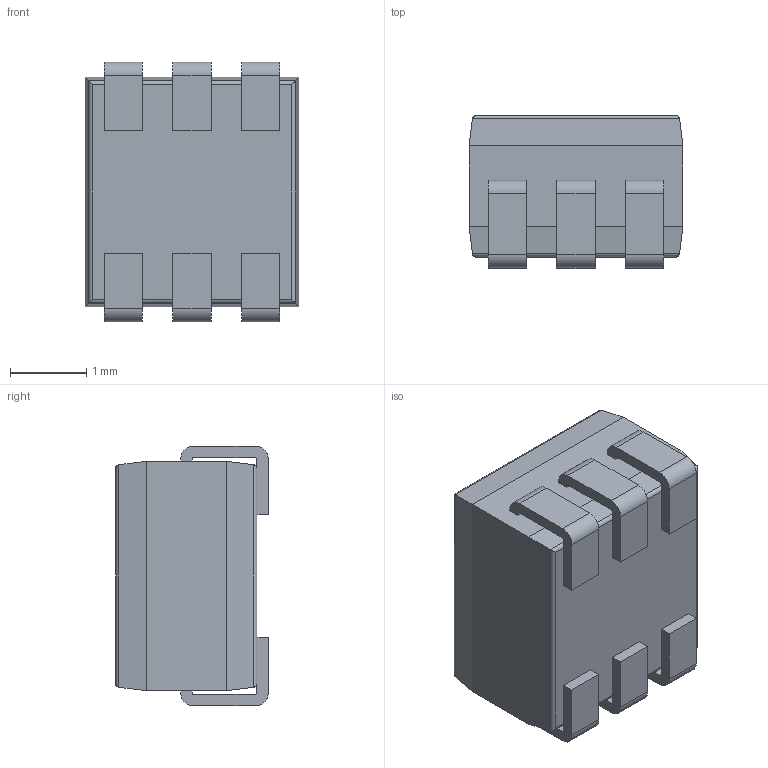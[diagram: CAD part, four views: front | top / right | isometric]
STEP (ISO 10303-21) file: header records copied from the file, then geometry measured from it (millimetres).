
FILE_DESCRIPTION (( 'STEP AP214' ), '1' );
FILE_NAME ( 'SOL6P90_280X300X200L50.STEP', '2021-10-06T06:49:14', ( '' ), ( '' ), '', '©2017 PCB Libraries, Inc.', '' );
FILE_SCHEMA (( 'AUTOMOTIVE_DESIGN' ));
Length unit declared in the file: millimetre
Products named in the file (1): SOL6P90_280X300X200L50
Bounding box: 2.8 x 2 x 3.4 mm (x, y, z)
Volume: 16.1 mm3; surface area: 52.1 mm2
Topology: 7 solids, 7 shells, 109 faces, 266 edges, 172 vertices
Faces by surface type: plane 75, cylinder 32, torus 2
Entity records: 3587 total; most frequent: CARTESIAN_POINT 572, DIRECTION 532, ORIENTED_EDGE 532, EDGE_CURVE 266, VECTOR 204, LINE 204, VERTEX_POINT 172, AXIS2_PLACEMENT_3D 164
